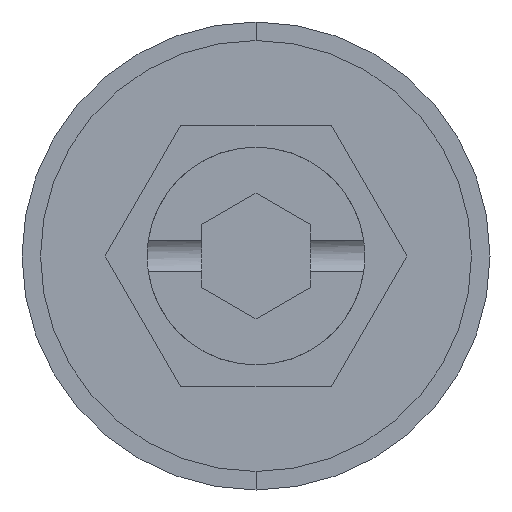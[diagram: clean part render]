
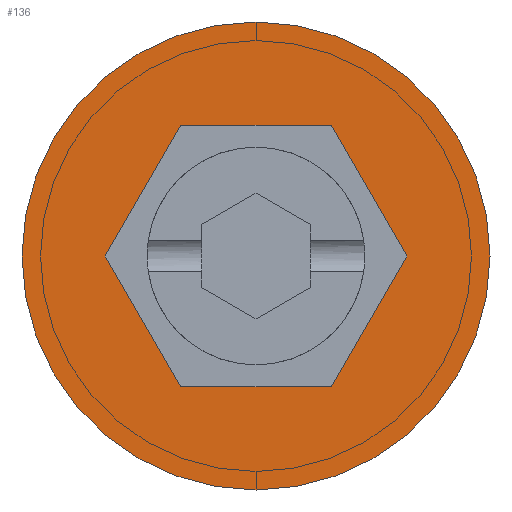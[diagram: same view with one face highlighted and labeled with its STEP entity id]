
A CAD part, front view. The second image highlights one B-rep face of the part: STEP entity #136.
In plain terms, the highlighted planar face has unit normal (0, -1, 0).
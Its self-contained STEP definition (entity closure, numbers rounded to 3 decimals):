
#136 = ADVANCED_FACE ( 'NONE', ( #666, #665 ), #664, .T. ) ;
#137 = ORIENTED_EDGE ( 'NONE', *, *, #138, .F. ) ;
#138 = EDGE_CURVE ( 'NONE', #139, #258, #659, .T. ) ;
#139 = VERTEX_POINT ( 'NONE', #655 ) ;
#140 = EDGE_CURVE ( 'NONE', #263, #266, #654, .T. ) ;
#141 = EDGE_LOOP ( 'NONE', ( #142, #270 ) ) ;
#142 = ORIENTED_EDGE ( 'NONE', *, *, #1574, .T. ) ;
#146 = EDGE_CURVE ( 'NONE', #286, #262, #650, .T. ) ;
#253 = ORIENTED_EDGE ( 'NONE', *, *, #140, .F. ) ;
#255 = ORIENTED_EDGE ( 'NONE', *, *, #261, .F. ) ;
#256 = ORIENTED_EDGE ( 'NONE', *, *, #146, .F. ) ;
#257 = EDGE_CURVE ( 'NONE', #258, #286, #996, .T. ) ;
#258 = VERTEX_POINT ( 'NONE', #988 ) ;
#260 = EDGE_LOOP ( 'NONE', ( #255, #256, #269, #137, #264, #253 ) ) ;
#261 = EDGE_CURVE ( 'NONE', #262, #263, #987, .T. ) ;
#262 = VERTEX_POINT ( 'NONE', #983 ) ;
#263 = VERTEX_POINT ( 'NONE', #982 ) ;
#264 = ORIENTED_EDGE ( 'NONE', *, *, #265, .F. ) ;
#265 = EDGE_CURVE ( 'NONE', #266, #139, #981, .T. ) ;
#266 = VERTEX_POINT ( 'NONE', #977 ) ;
#269 = ORIENTED_EDGE ( 'NONE', *, *, #257, .F. ) ;
#270 = ORIENTED_EDGE ( 'NONE', *, *, #271, .T. ) ;
#271 = EDGE_CURVE ( 'NONE', #1555, #1556, #976, .T. ) ;
#286 = VERTEX_POINT ( 'NONE', #954 ) ;
#647 = DIRECTION ( 'NONE',  ( 0.5, 0., -0.866 ) ) ;
#648 = VECTOR ( 'NONE', #647, 1000. ) ;
#649 = CARTESIAN_POINT ( 'NONE',  ( -6.928, 0., 0. ) ) ;
#650 = LINE ( 'NONE', #649, #648 ) ;
#651 = DIRECTION ( 'NONE',  ( 0.5, 0., 0.866 ) ) ;
#652 = VECTOR ( 'NONE', #651, 1000. ) ;
#653 = CARTESIAN_POINT ( 'NONE',  ( 3.464, 0., -6. ) ) ;
#654 = LINE ( 'NONE', #653, #652 ) ;
#655 = CARTESIAN_POINT ( 'NONE',  ( 3.464, 0., 6. ) ) ;
#656 = DIRECTION ( 'NONE',  ( -1., 0., 0. ) ) ;
#657 = VECTOR ( 'NONE', #656, 1000. ) ;
#658 = CARTESIAN_POINT ( 'NONE',  ( 3.464, 0., 6. ) ) ;
#659 = LINE ( 'NONE', #658, #657 ) ;
#660 = DIRECTION ( 'NONE',  ( 0., 0., -1. ) ) ;
#661 = DIRECTION ( 'NONE',  ( 0., -1., 0. ) ) ;
#662 = CARTESIAN_POINT ( 'NONE',  ( 0., 0., 0. ) ) ;
#663 = AXIS2_PLACEMENT_3D ( 'NONE', #662, #661, #660 ) ;
#664 = PLANE ( 'NONE',  #663 ) ;
#665 = FACE_OUTER_BOUND ( 'NONE', #141, .T. ) ;
#666 = FACE_BOUND ( 'NONE', #260, .T. ) ;
#954 = CARTESIAN_POINT ( 'NONE',  ( -6.928, 0., 0. ) ) ;
#972 = DIRECTION ( 'NONE',  ( 0., 0., -1. ) ) ;
#973 = DIRECTION ( 'NONE',  ( 0., -1., 0. ) ) ;
#974 = CARTESIAN_POINT ( 'NONE',  ( 0., 0., 0. ) ) ;
#975 = AXIS2_PLACEMENT_3D ( 'NONE', #974, #973, #972 ) ;
#976 = CIRCLE ( 'NONE', #975, 10.75 ) ;
#977 = CARTESIAN_POINT ( 'NONE',  ( 6.928, 0., 0. ) ) ;
#978 = DIRECTION ( 'NONE',  ( -0.5, 0., 0.866 ) ) ;
#979 = VECTOR ( 'NONE', #978, 1000. ) ;
#980 = CARTESIAN_POINT ( 'NONE',  ( 6.928, 0., 0. ) ) ;
#981 = LINE ( 'NONE', #980, #979 ) ;
#982 = CARTESIAN_POINT ( 'NONE',  ( 3.464, 0., -6. ) ) ;
#983 = CARTESIAN_POINT ( 'NONE',  ( -3.464, 0., -6. ) ) ;
#984 = DIRECTION ( 'NONE',  ( 1., 0., 0. ) ) ;
#985 = VECTOR ( 'NONE', #984, 1000. ) ;
#986 = CARTESIAN_POINT ( 'NONE',  ( -3.464, 0., -6. ) ) ;
#987 = LINE ( 'NONE', #986, #985 ) ;
#988 = CARTESIAN_POINT ( 'NONE',  ( -3.464, 0., 6. ) ) ;
#989 = DIRECTION ( 'NONE',  ( -0.5, 0., -0.866 ) ) ;
#990 = VECTOR ( 'NONE', #989, 1000. ) ;
#991 = CARTESIAN_POINT ( 'NONE',  ( -3.464, 0., 6. ) ) ;
#996 = LINE ( 'NONE', #991, #990 ) ;
#1555 = VERTEX_POINT ( 'NONE', #2859 ) ;
#1556 = VERTEX_POINT ( 'NONE', #2858 ) ;
#1574 = EDGE_CURVE ( 'NONE', #1556, #1555, #2884, .T. ) ;
#2858 = CARTESIAN_POINT ( 'NONE',  ( 0., 0., -10.75 ) ) ;
#2859 = CARTESIAN_POINT ( 'NONE',  ( 0., 0., 10.75 ) ) ;
#2880 = DIRECTION ( 'NONE',  ( 0., 0., -1. ) ) ;
#2881 = DIRECTION ( 'NONE',  ( 0., -1., 0. ) ) ;
#2882 = CARTESIAN_POINT ( 'NONE',  ( 0., 0., 0. ) ) ;
#2883 = AXIS2_PLACEMENT_3D ( 'NONE', #2882, #2881, #2880 ) ;
#2884 = CIRCLE ( 'NONE', #2883, 10.75 ) ;
